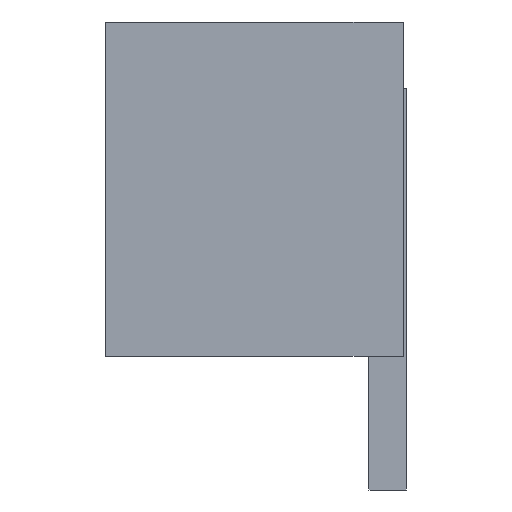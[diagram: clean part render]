
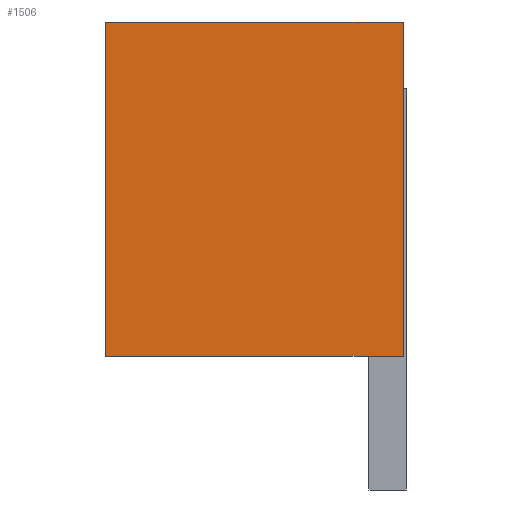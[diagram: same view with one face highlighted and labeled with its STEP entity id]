
A CAD part, left-side view. The second image highlights one B-rep face of the part: STEP entity #1506.
In plain terms, the highlighted planar face has unit normal (-1, 0, 0).
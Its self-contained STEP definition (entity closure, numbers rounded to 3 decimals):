
#50=DIRECTION('',(0.,-1.,0.));
#51=VECTOR('',#50,4.45);
#52=CARTESIAN_POINT('',(-2.25,2.225,0.));
#53=LINE('',#52,#51);
#402=DIRECTION('',(0.,-1.,0.));
#403=VECTOR('',#402,4.45);
#404=CARTESIAN_POINT('',(-2.25,2.225,-5.));
#405=LINE('',#404,#403);
#434=DIRECTION('',(0.,0.,-1.));
#435=VECTOR('',#434,5.);
#436=CARTESIAN_POINT('',(-2.25,-2.225,0.));
#437=LINE('',#436,#435);
#486=DIRECTION('',(0.,0.,-1.));
#487=VECTOR('',#486,5.);
#488=CARTESIAN_POINT('',(-2.25,2.225,0.));
#489=LINE('',#488,#487);
#634=CARTESIAN_POINT('',(-2.25,2.225,0.));
#635=CARTESIAN_POINT('',(-2.25,-2.225,0.));
#636=VERTEX_POINT('',#634);
#637=VERTEX_POINT('',#635);
#642=CARTESIAN_POINT('',(-2.25,2.225,-5.));
#643=CARTESIAN_POINT('',(-2.25,-2.225,-5.));
#644=VERTEX_POINT('',#642);
#645=VERTEX_POINT('',#643);
#1494=CARTESIAN_POINT('',(-2.25,2.225,0.));
#1495=DIRECTION('',(-1.,0.,0.));
#1496=DIRECTION('',(0.,-1.,0.));
#1497=AXIS2_PLACEMENT_3D('',#1494,#1495,#1496);
#1498=PLANE('',#1497);
#1499=ORIENTED_EDGE('',*,*,#863,.T.);
#1500=ORIENTED_EDGE('',*,*,#1446,.T.);
#1501=ORIENTED_EDGE('',*,*,#1422,.F.);
#1503=ORIENTED_EDGE('',*,*,#1502,.F.);
#1504=EDGE_LOOP('',(#1499,#1500,#1501,#1503));
#1505=FACE_OUTER_BOUND('',#1504,.F.);
#863=EDGE_CURVE('',#636,#637,#53,.T.);
#1422=EDGE_CURVE('',#644,#645,#405,.T.);
#1446=EDGE_CURVE('',#637,#645,#437,.T.);
#1502=EDGE_CURVE('',#636,#644,#489,.T.);
#1506=ADVANCED_FACE('',(#1505),#1498,.T.);
